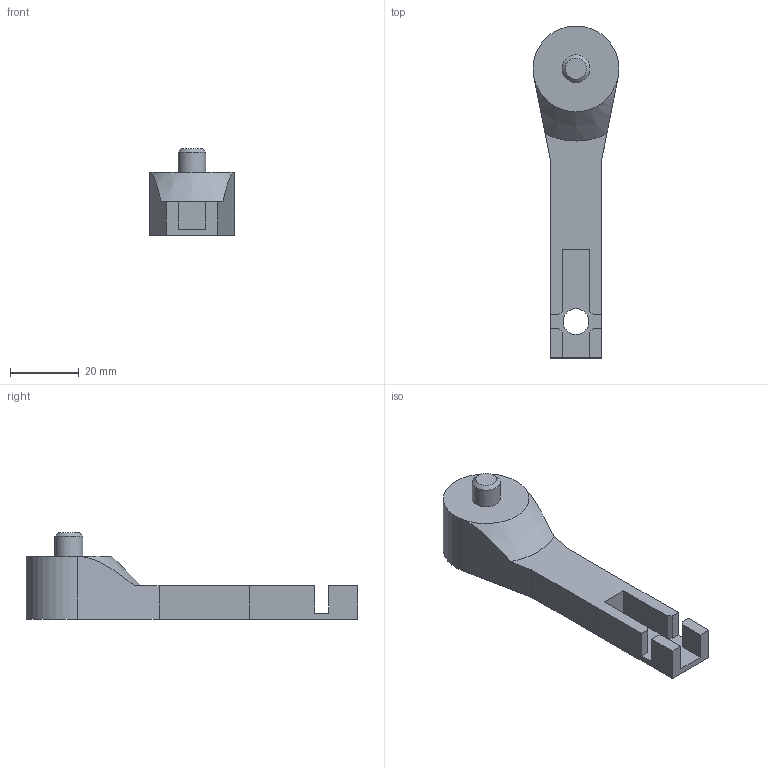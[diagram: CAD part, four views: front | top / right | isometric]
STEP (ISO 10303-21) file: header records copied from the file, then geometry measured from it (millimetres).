
FILE_DESCRIPTION(('STEP AP242 Edition 2','STEP AP242 Edition 2''CAx-IF Rec.Pracs.---Representation and Presentation of Product Manufacturing Information (PMI)---4.0---2014-10-13','STEP AP242 Edition 2''CAx-IF Rec.Pracs.---Representation and Presentation of Product Manufacturing Information (PMI)---4.0---2014-10-13''CAx-IF Rec.Pracs.---3D Tessellated Geometry---0.4---2014-09-14','STEP AP242 Edition 2''CAx-IF Rec.Pracs.---Representation and Presentation of Product Manufacturing Information (PMI)---4.0---2014-10-13''CAx-IF Rec.Pracs.---3D Tessellated Geometry---0.4---2014-09-14''2;1','STEP AP242 Edition 2''CAx-IF Rec.Pracs.---Representation and Presentation of Product Manufacturing Information (PMI)---4.0---2014-10-13''CAx-IF Rec.Pracs.---3D Tessellated Geometry---0.4---2014-09-14''2;1''CAx-IF Rec.Pracs.---User Defined Attributes---1.5---2016-08-15'),'2;1');
FILE_NAME('/vol/tmp/translate-1775843114321225475/Draw Bot V2 - R - L1 Arm.step','2026-03-21T23:30:43',(''),(''),'ST-DEVELOPER v20','ONSHAPE BY PTC INC, 1.212',' ');
FILE_SCHEMA(('AP242_MANAGED_MODEL_BASED_3D_ENGINEERING_MIM_LF { 1 0 10303 442 3 1 4 }'));
Length unit declared in the file: millimetre
Products named in the file (1): R - L1 Arm
Bounding box: 24.99 x 96.58 x 25.2 mm (x, y, z)
Volume: 18664 mm3; surface area: 7189.2 mm2
Topology: 1 solids, 1 shells, 40 faces, 96 edges, 63 vertices
Faces by surface type: plane 31, cylinder 7, cone 2
Full cylindrical faces by diameter (mm): 4 x4, 7.5 x1, 8.1 x1
Entity records: 1153 total; most frequent: CARTESIAN_POINT 206, DIRECTION 186, ORIENTED_EDGE 178, EDGE_CURVE 89, LINE 70, VECTOR 70, VERTEX_POINT 63, AXIS2_PLACEMENT_3D 58
